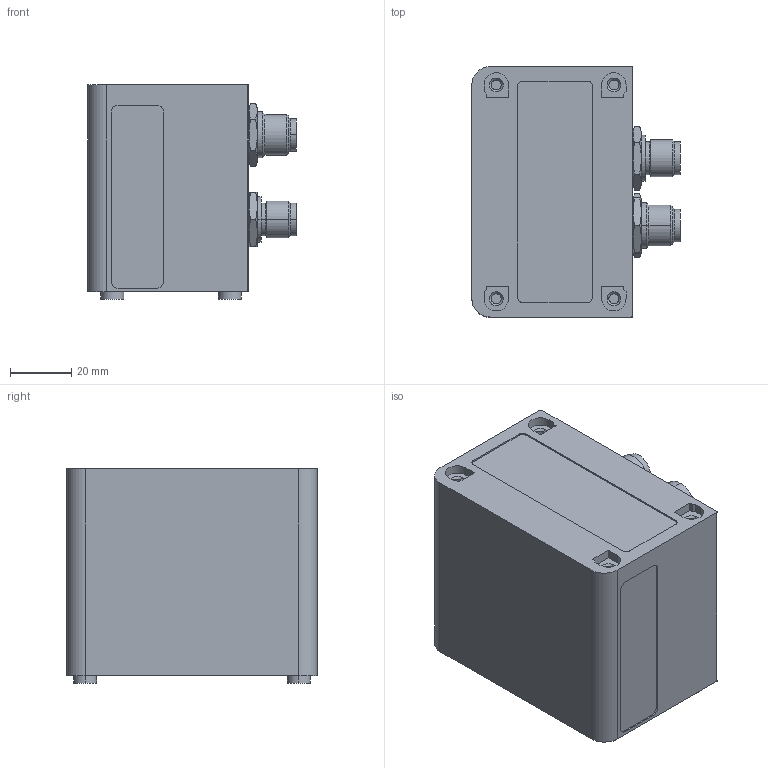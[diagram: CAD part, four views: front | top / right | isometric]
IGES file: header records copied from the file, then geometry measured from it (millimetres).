
Global section: file name: No Iges File Name specified; native system: Autodesk Inventor 2010; preprocessor: AutoDesk Inventor Iges Exporter R2010; author: brembcl1; date: 20091124.150156; units: millimetre
Bounding box: 68.2 x 82 x 70.2 mm (x, y, z)
Volume: 293466.9 mm3; surface area: 31371.8 mm2
Topology: 1 solids, 1 shells, 417 faces, 1027 edges, 670 vertices
Faces by surface type: plane 193, bspline 96, cylinder 60, revolution 44, cone 24
